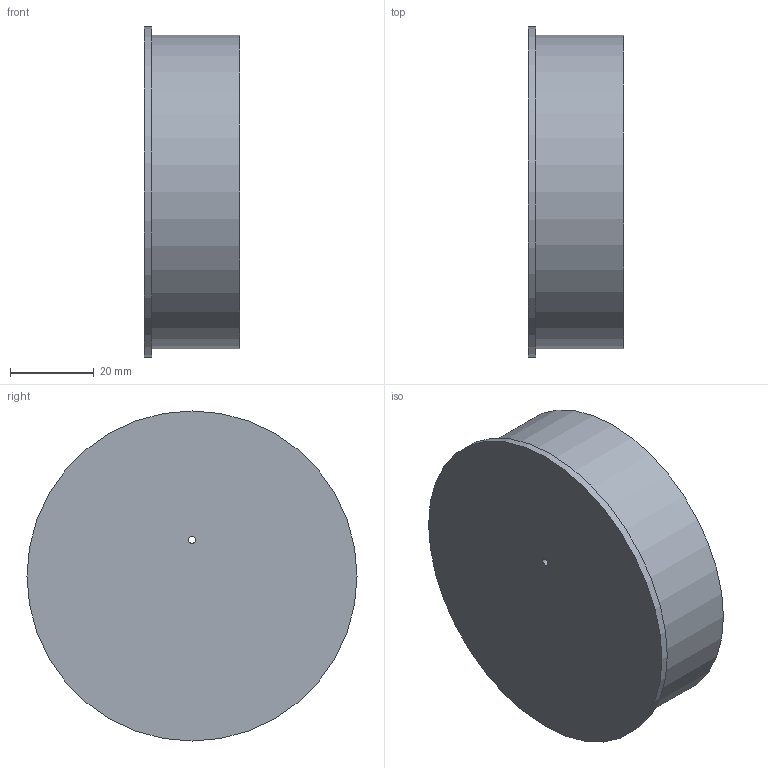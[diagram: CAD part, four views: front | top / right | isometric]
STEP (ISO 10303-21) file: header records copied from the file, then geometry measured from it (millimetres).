
FILE_DESCRIPTION( ('This file contains a STEP AP42 implementation' ,'as created by ZW3D STEP Interface translator.') ,'2;1' );
FILE_NAME( 'OGW-75.stp' ,'26 519. 74517', (''), ('ZWCAD Software Co.'), 'Version 1.0', 'ZW3D to STEP translator', '' );
FILE_SCHEMA(('AP242_MANAGED_MODEL_BASED_3D_ENGINEERING_MIM_LF { 1 0 10303 442 1 1 4 }'));
Length unit declared in the file: millimetre
Products named in the file (1): 0
Bounding box: 22.8 x 79 x 79 mm (x, y, z)
Volume: 14421.9 mm3; surface area: 19999.4 mm2
Topology: 1 solids, 1 shells, 8 faces, 12 edges, 8 vertices
Faces by surface type: cylinder 4, plane 4
Full cylindrical faces by diameter (mm): 1.7 x1, 72.7 x1, 75 x1, 79 x1
Entity records: 216 total; most frequent: DIRECTION 38, CARTESIAN_POINT 29, ORIENTED_EDGE 24, AXIS2_PLACEMENT_3D 17, EDGE_CURVE 12, EDGE_LOOP 12, VERTEX_POINT 8, CIRCLE 8
